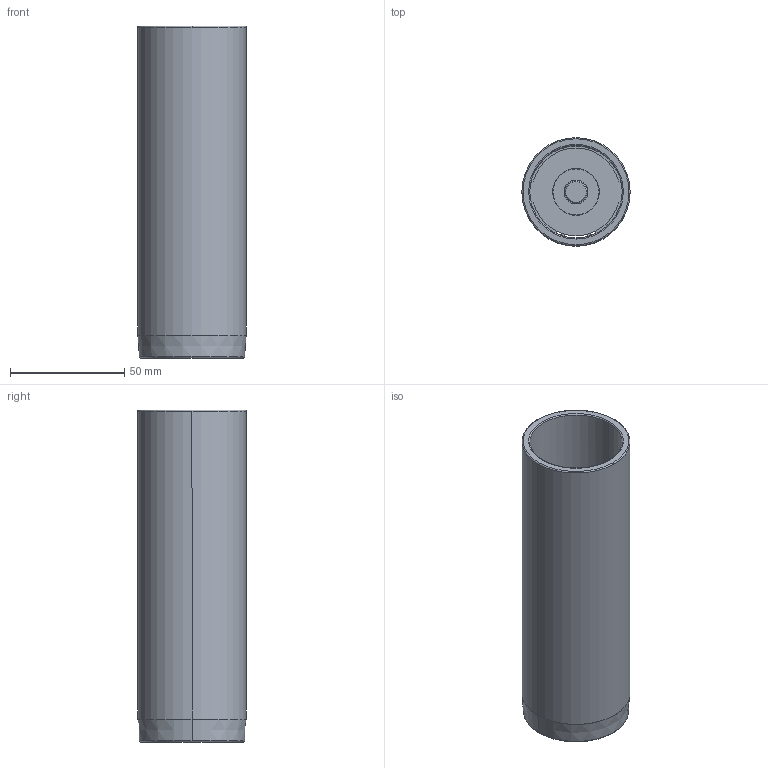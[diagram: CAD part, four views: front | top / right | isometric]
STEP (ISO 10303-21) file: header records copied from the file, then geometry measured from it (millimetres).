
FILE_DESCRIPTION((''),'2;1');
FILE_NAME('C12_040_145.stp','2009-01-28T11:36:05',(''),(''),'Mechanical Desktop 2009','Mechanical Desktop 2009',', , ');
FILE_SCHEMA(('CONFIG_CONTROL_DESIGN'));
Length unit declared in the file: millimetre
Products named in the file (2): Product; blmdl1
Assembly tree (1 placements, depth 2):
  Product
    blmdl1
Bounding box: 47.25 x 47.25 x 145 mm (x, y, z)
Volume: 72988.9 mm3; surface area: 47498.1 mm2
Topology: 5 solids, 5 shells, 79 faces, 200 edges, 134 vertices
Faces by surface type: cylinder 34, plane 29, torus 10, cone 6
Entity records: 2585 total; most frequent: DIRECTION 480, CARTESIAN_POINT 435, ORIENTED_EDGE 400, AXIS2_PLACEMENT_3D 203, EDGE_CURVE 200, VERTEX_POINT 134, CIRCLE 122, EDGE_LOOP 92
